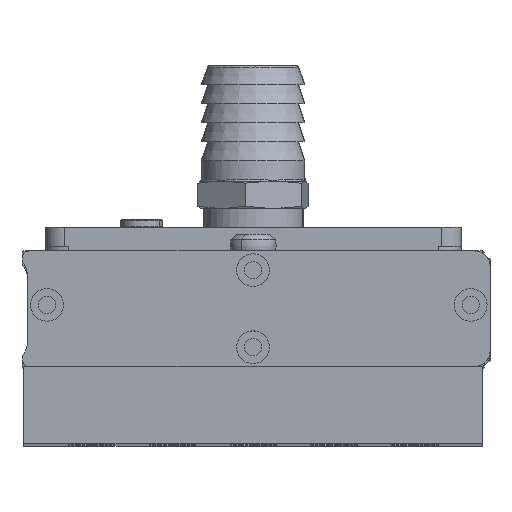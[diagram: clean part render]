
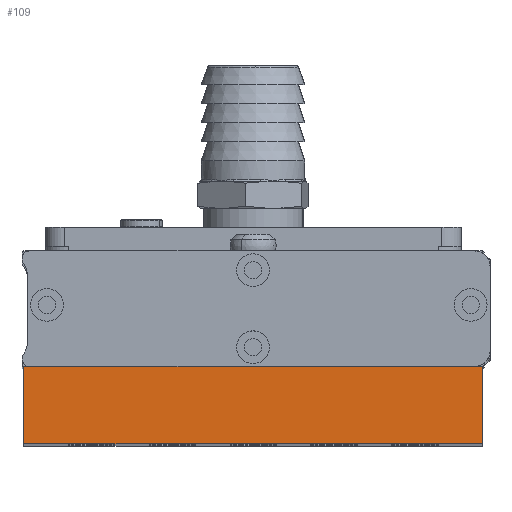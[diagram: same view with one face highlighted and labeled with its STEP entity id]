
A CAD part, top view. The second image highlights one B-rep face of the part: STEP entity #109.
In plain terms, the highlighted planar face has unit normal (0, 0, 1).
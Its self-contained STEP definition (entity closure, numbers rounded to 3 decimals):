
#109 = ADVANCED_FACE ( 'NONE', ( #14423 ), #32035, .F. ) ;
#669 = CARTESIAN_POINT ( 'NONE',  ( 59.5, -35., 202. ) ) ;
#1221 = EDGE_CURVE ( 'NONE', #22569, #3636, #20680, .T. ) ;
#3118 = DIRECTION ( 'NONE',  ( 1., 0., 0. ) ) ;
#3395 = LINE ( 'NONE', #26301, #32050 ) ;
#3636 = VERTEX_POINT ( 'NONE', #29169 ) ;
#5026 = CARTESIAN_POINT ( 'NONE',  ( -59.5, -15., 202. ) ) ;
#5141 = DIRECTION ( 'NONE',  ( 0., -1., 0. ) ) ;
#6220 = DIRECTION ( 'NONE',  ( 1., 0., 0. ) ) ;
#6457 = DIRECTION ( 'NONE',  ( 0., 1., 0. ) ) ;
#7748 = VECTOR ( 'NONE', #6220, 1000. ) ;
#10820 = DIRECTION ( 'NONE',  ( 0., -1., 0. ) ) ;
#11987 = CARTESIAN_POINT ( 'NONE',  ( -59.5, -15., 202. ) ) ;
#13062 = EDGE_LOOP ( 'NONE', ( #24124, #18943, #21042, #30171 ) ) ;
#13568 = EDGE_CURVE ( 'NONE', #27035, #13607, #22269, .T. ) ;
#13607 = VERTEX_POINT ( 'NONE', #669 ) ;
#14423 = FACE_OUTER_BOUND ( 'NONE', #13062, .T. ) ;
#16499 = CARTESIAN_POINT ( 'NONE',  ( -59.5, -35., 202. ) ) ;
#17963 = AXIS2_PLACEMENT_3D ( 'NONE', #21912, #31816, #6457 ) ;
#18943 = ORIENTED_EDGE ( 'NONE', *, *, #23824, .F. ) ;
#20560 = VECTOR ( 'NONE', #5141, 1000. ) ;
#20680 = LINE ( 'NONE', #21674, #7748 ) ;
#21042 = ORIENTED_EDGE ( 'NONE', *, *, #1221, .F. ) ;
#21674 = CARTESIAN_POINT ( 'NONE',  ( -59.5, -15., 202. ) ) ;
#21899 = VECTOR ( 'NONE', #3118, 1000. ) ;
#21912 = CARTESIAN_POINT ( 'NONE',  ( -59.5, -15., 202. ) ) ;
#22269 = LINE ( 'NONE', #28778, #21899 ) ;
#22569 = VERTEX_POINT ( 'NONE', #11987 ) ;
#23824 = EDGE_CURVE ( 'NONE', #3636, #13607, #3395, .T. ) ;
#24124 = ORIENTED_EDGE ( 'NONE', *, *, #13568, .T. ) ;
#26053 = EDGE_CURVE ( 'NONE', #22569, #27035, #27827, .T. ) ;
#26301 = CARTESIAN_POINT ( 'NONE',  ( 59.5, -15., 202. ) ) ;
#27035 = VERTEX_POINT ( 'NONE', #16499 ) ;
#27827 = LINE ( 'NONE', #5026, #20560 ) ;
#28778 = CARTESIAN_POINT ( 'NONE',  ( -59.5, -35., 202. ) ) ;
#29169 = CARTESIAN_POINT ( 'NONE',  ( 59.5, -15., 202. ) ) ;
#30171 = ORIENTED_EDGE ( 'NONE', *, *, #26053, .T. ) ;
#31816 = DIRECTION ( 'NONE',  ( 0., 0., -1. ) ) ;
#32035 = PLANE ( 'NONE',  #17963 ) ;
#32050 = VECTOR ( 'NONE', #10820, 1000. ) ;
